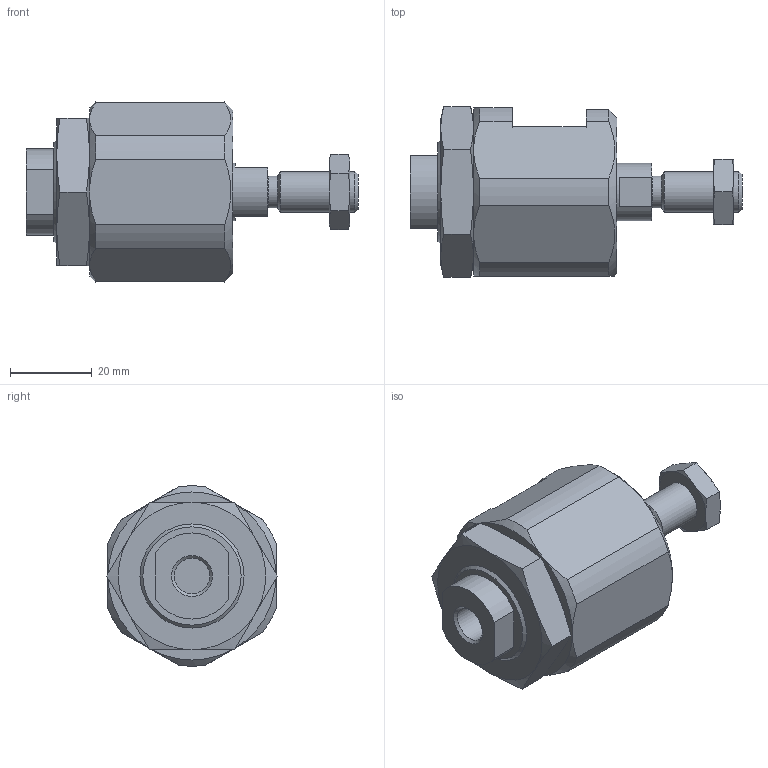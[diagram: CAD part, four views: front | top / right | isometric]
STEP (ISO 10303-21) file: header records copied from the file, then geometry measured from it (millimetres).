
FILE_DESCRIPTION( ( 'STEP AP203' ), '1' );
FILE_NAME( 'C:/Temp/Ganter_Step_05_03_2020/data/3_6/gn240_2/Rapid plug-in coupling GN 240.2-M10x1,25 (0).stp', '2020-03-12T14:08:23', ( 'License CC BY-ND 4.0' ), ( 'CADENAS' ), ' ', 'PARTsolutions', ' ' );
FILE_SCHEMA( ( 'CONFIG_CONTROL_DESIGN' ) );
Length unit declared in the file: millimetre
Products named in the file (4): Rapid plug-in coupling GN 240.2-M10x1,25 (0); _Rapid plug-in coupling GN 240.2-M10x1,25 (0)-1; _Rapid plug-in coupling GN 240.2-M10x1,25 (0)-5; _Rapid plug-in coupling GN 240.2-M10x1,25 (0)-4
Assembly tree (3 placements, depth 2):
  Rapid plug-in coupling GN 240.2-M10x1,25 (0)
    _Rapid plug-in coupling GN 240.2-M10x1,25 (0)-1
    _Rapid plug-in coupling GN 240.2-M10x1,25 (0)-5
    _Rapid plug-in coupling GN 240.2-M10x1,25 (0)-4
Bounding box: 81 x 41.57 x 43.94 mm (x, y, z)
Volume: 53228.8 mm3; surface area: 16742.8 mm2
Topology: 3 solids, 3 shells, 105 faces, 236 edges, 145 vertices
Faces by surface type: plane 44, cone 39, cylinder 19, torus 2, sphere 1
Full cylindrical faces by diameter (mm): 7.7 x1, 8.647 x2, 10 x1, 14 x1, 26.6 x2
Entity records: 3116 total; most frequent: CARTESIAN_POINT 789, DIRECTION 451, ORIENTED_EDGE 430, EDGE_CURVE 215, AXIS2_PLACEMENT_3D 194, VERTEX_POINT 142, EDGE_LOOP 135, FACE_OUTER_BOUND 115
